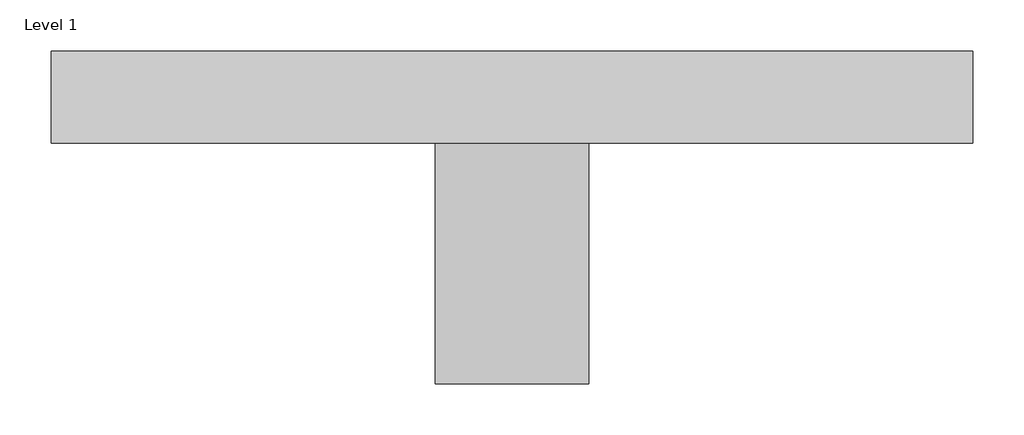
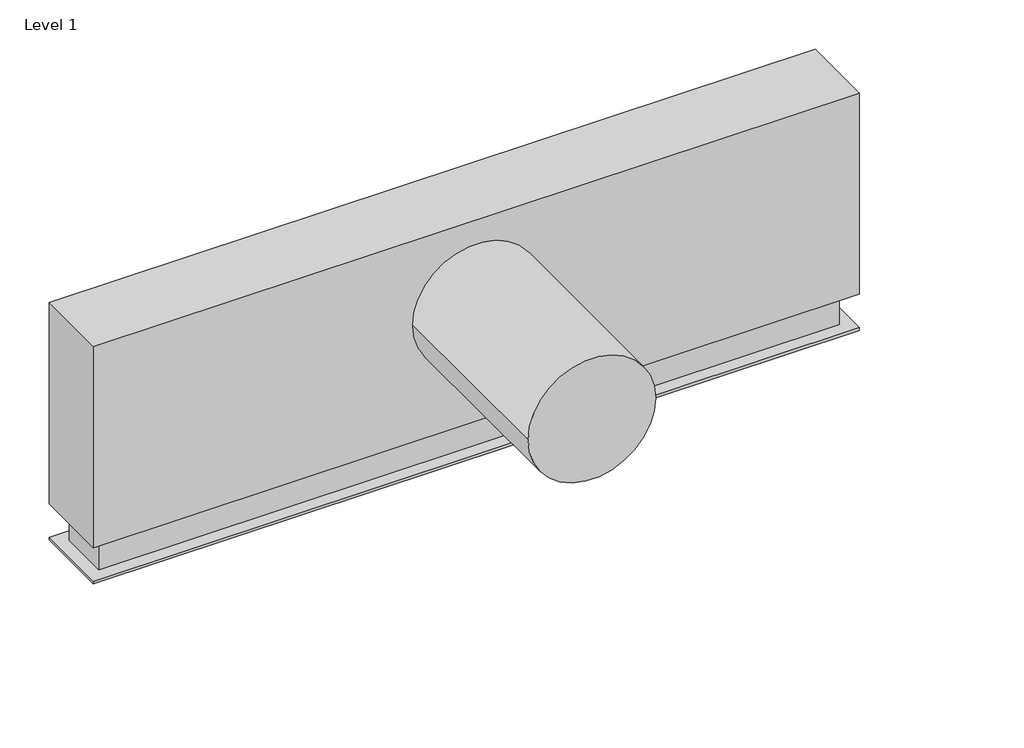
# One storey, incomplete: 1 air terminal.
"""IFC4 building model written with IfcOpenShell, lengths in millimetres."""

from ifc_helpers import new_model, si_unit, origin, place, context, project, spatial, transform, mapped, element, save
from components import air_terminal_1_slot_csd_with_plenum_900_long_150_spigot_036a8efe

model = new_model("IFC4")

# Units and contexts
model_context = context("Model", 3, world=origin())
ifc_project = project(units=[si_unit("LENGTHUNIT", "METRE", prefix="MILLI")], contexts=[model_context])

# Site, building, storey
site = spatial("IfcSite", under=ifc_project)
building = spatial("IfcBuilding", under=site)
storey = spatial("IfcBuildingStorey", under=building, Name="Level 1", Elevation=0.0)

# Air terminal
placement = place(None, origin())
air_terminal_1_slot_csd_with_plenum_900_long_150_spigot_shape = air_terminal_1_slot_csd_with_plenum_900_long_150_spigot_036a8efe(model_context)
element("IfcAirTerminal", 1, ObjectType="DC_Holyoake_MEQ_CSD-25-1Slot_with_CSDAI__Plenum_14 : 1 Slot CSD with Plenum 900 Long - 150 Spigot", at=placement, inside=storey, context=model_context, shape_type="MappedRepresentation", body=[
    mapped(air_terminal_1_slot_csd_with_plenum_900_long_150_spigot_shape, transform((-3716.0104436, 5288.3822554, 0.0), x_axis=(1.0, 0.0, 0.0), y_axis=(0.0, 1.0, 0.0), z_axis=(0.0, 0.0, 1.0))),
])

save(model, "model.ifc")
